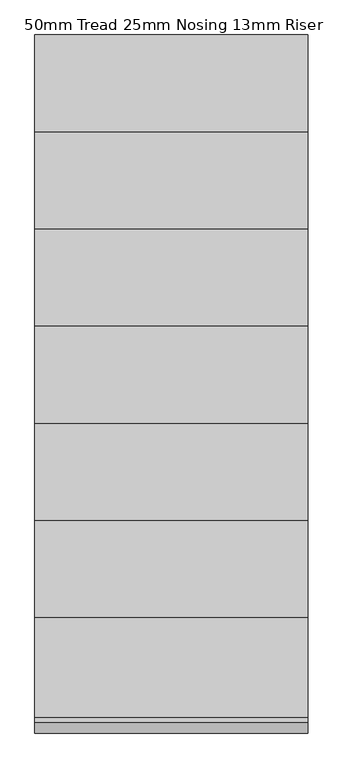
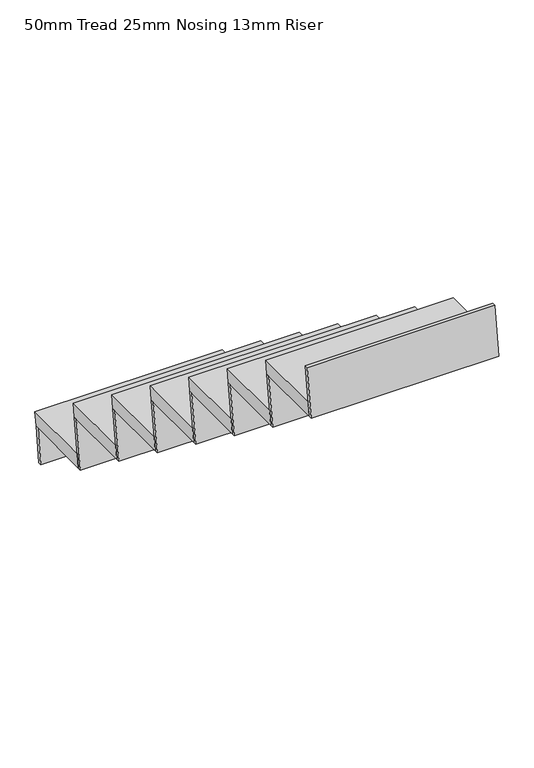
"""IFC4 building model written with IfcOpenShell, lengths in millimetres: stair flight geometry, 50mm Tread 25mm Nosing 13mm Riser."""

from ifc_helpers import new_model, si_unit, frame, origin, place, context, project, spatial, polyline, outline, extrude, source, transform, mapped, element, save


def stair_flight_50mm_tread_25mm_nosing_13mm_riser_18002d72(model_context):
    return source(origin(), model_context, "Body", "SweptSolid", [
        extrude(outline(polyline([(959.8717848, -760.5058824), (1226.1717848, -760.5058824), (1219.2, -810.5058824), (952.9, -810.5058824), (959.8717848, -760.5058824)])), frame((1270.0, 0.0, 0.0), z_axis=(1.0, 0.0, 0.0), x_axis=(0.0, 1.0, 0.0)), (0.0, 0.0, 1.0), 679.45),
        extrude(outline(polyline([(1219.2, -810.5058824), (1201.1717848, -939.8), (1188.5508553, -939.8), (1206.5790705, -810.5058824), (1219.2, -810.5058824)])), frame((1270.0, 0.0, 0.0), z_axis=(1.0, 0.0, 0.0), x_axis=(0.0, 1.0, 0.0)), (0.0, 0.0, 1.0), 679.45),
        extrude(outline(polyline([(977.9, -631.2117647), (952.9, -810.5058824), (940.2790705, -810.5058824), (965.2790705, -631.2117647), (977.9, -631.2117647)])), frame((1270.0, 0.0, 0.0), z_axis=(1.0, 0.0, 0.0), x_axis=(0.0, 1.0, 0.0)), (0.0, 0.0, 1.0), 679.45),
        extrude(outline(polyline([(718.5717848, -581.2117647), (984.8717848, -581.2117647), (977.9, -631.2117647), (711.6, -631.2117647), (718.5717848, -581.2117647)])), frame((1270.0, 0.0, 0.0), z_axis=(1.0, 0.0, 0.0), x_axis=(0.0, 1.0, 0.0)), (0.0, 0.0, 1.0), 679.45),
        extrude(outline(polyline([(736.6, -451.9176471), (711.6, -631.2117647), (698.9790705, -631.2117647), (723.9790705, -451.9176471), (736.6, -451.9176471)])), frame((1270.0, 0.0, 0.0), z_axis=(1.0, 0.0, 0.0), x_axis=(0.0, 1.0, 0.0)), (0.0, 0.0, 1.0), 679.45),
        extrude(outline(polyline([(477.2717848, -401.9176471), (743.5717848, -401.9176471), (736.6, -451.9176471), (470.3, -451.9176471), (477.2717848, -401.9176471)])), frame((1270.0, 0.0, 0.0), z_axis=(1.0, 0.0, 0.0), x_axis=(0.0, 1.0, 0.0)), (0.0, 0.0, 1.0), 679.45),
        extrude(outline(polyline([(495.3, -272.6235294), (470.3, -451.9176471), (457.6790705, -451.9176471), (482.6790705, -272.6235294), (495.3, -272.6235294)])), frame((1270.0, 0.0, 0.0), z_axis=(1.0, 0.0, 0.0), x_axis=(0.0, 1.0, 0.0)), (0.0, 0.0, 1.0), 679.45),
        extrude(outline(polyline([(235.9717848, -222.6235294), (502.2717848, -222.6235294), (495.3, -272.6235294), (229.0, -272.6235294), (235.9717848, -222.6235294)])), frame((1270.0, 0.0, 0.0), z_axis=(1.0, 0.0, 0.0), x_axis=(0.0, 1.0, 0.0)), (0.0, 0.0, 1.0), 679.45),
        extrude(outline(polyline([(254.0, -93.3294118), (229.0, -272.6235294), (216.3790705, -272.6235294), (241.3790705, -93.3294118), (254.0, -93.3294118)])), frame((1270.0, 0.0, 0.0), z_axis=(1.0, 0.0, 0.0), x_axis=(0.0, 1.0, 0.0)), (0.0, 0.0, 1.0), 679.45),
        extrude(outline(polyline([(-5.3282152, -43.3294118), (260.9717848, -43.3294118), (254.0, -93.3294118), (-12.3, -93.3294118), (-5.3282152, -43.3294118)])), frame((1270.0, 0.0, 0.0), z_axis=(1.0, 0.0, 0.0), x_axis=(0.0, 1.0, 0.0)), (0.0, 0.0, 1.0), 679.45),
        extrude(outline(polyline([(12.7, 85.9647059), (-12.3, -93.3294118), (-24.9209295, -93.3294118), (0.0790705, 85.9647059), (12.7, 85.9647059)])), frame((1270.0, 0.0, 0.0), z_axis=(1.0, 0.0, 0.0), x_axis=(0.0, 1.0, 0.0)), (0.0, 0.0, 1.0), 679.45),
        extrude(outline(polyline([(-246.6282152, 135.9647059), (19.6717848, 135.9647059), (12.7, 85.9647059), (-253.6, 85.9647059), (-246.6282152, 135.9647059)])), frame((1270.0, 0.0, 0.0), z_axis=(1.0, 0.0, 0.0), x_axis=(0.0, 1.0, 0.0)), (0.0, 0.0, 1.0), 679.45),
        extrude(outline(polyline([(-228.6, 265.2588235), (-253.6, 85.9647059), (-266.2209295, 85.9647059), (-241.2209295, 265.2588235), (-228.6, 265.2588235)])), frame((1270.0, 0.0, 0.0), z_axis=(1.0, 0.0, 0.0), x_axis=(0.0, 1.0, 0.0)), (0.0, 0.0, 1.0), 679.45),
        extrude(outline(polyline([(-469.9, 444.5529412), (-494.9, 265.2588235), (-507.5209295, 265.2588235), (-482.5209295, 444.5529412), (-469.9, 444.5529412)])), frame((1270.0, 0.0, 0.0), z_axis=(1.0, 0.0, 0.0), x_axis=(0.0, 1.0, 0.0)), (0.0, 0.0, 1.0), 679.45),
        extrude(outline(polyline([(-487.9282152, 315.2588235), (-221.6282152, 315.2588235), (-228.6, 265.2588235), (-494.9, 265.2588235), (-487.9282152, 315.2588235)])), frame((1270.0, 0.0, 0.0), z_axis=(1.0, 0.0, 0.0), x_axis=(0.0, 1.0, 0.0)), (0.0, 0.0, 1.0), 679.45),
    ])


if __name__ == "__main__":
    model = new_model("IFC4")
    model_context = context("Model", 3, world=origin())
    ifc_project = project(units=[si_unit("LENGTHUNIT", "METRE", prefix="MILLI")], contexts=[model_context])
    site = spatial("IfcSite", under=ifc_project)
    building = spatial("IfcBuilding", under=site)
    placement = place(None, origin())
    stair_flight_50mm_tread_25mm_nosing_13mm_riser_shape = stair_flight_50mm_tread_25mm_nosing_13mm_riser_18002d72(model_context)
    element("IfcStairFlight", 1, ObjectType="50mm Tread 25mm Nosing 13mm Riser", at=placement, inside=building, context=model_context, shape_type="MappedRepresentation", body=[
        mapped(stair_flight_50mm_tread_25mm_nosing_13mm_riser_shape, transform((0.0, 0.0, 0.0), x_axis=(1.0, 0.0, 0.0), y_axis=(0.0, 1.0, 0.0), z_axis=(0.0, 0.0, 1.0))),
    ])
    save(model, "model.ifc")
